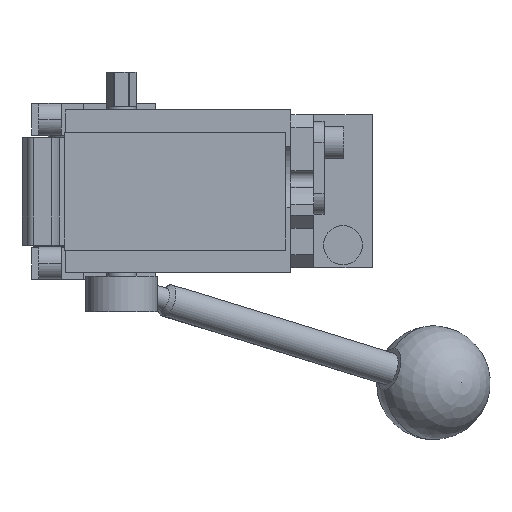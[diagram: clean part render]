
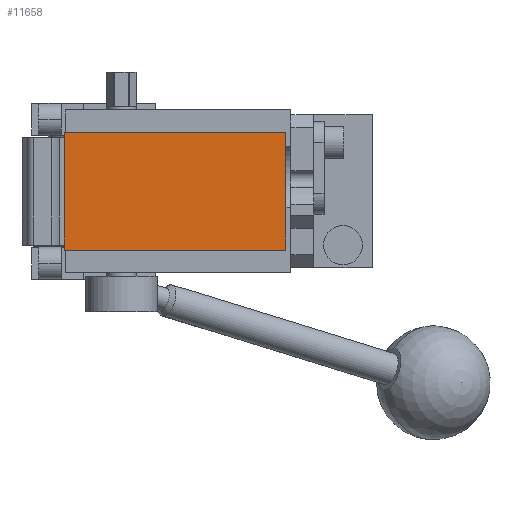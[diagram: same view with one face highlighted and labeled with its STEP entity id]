
A CAD part, front view. The second image highlights one B-rep face of the part: STEP entity #11658.
In plain terms, the highlighted planar face has unit normal (0, -1, 0).
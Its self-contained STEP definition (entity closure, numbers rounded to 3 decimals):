
#1017 = DIRECTION ( 'NONE',  ( 0., -1., 0. ) ) ;
#1284 = DIRECTION ( 'NONE',  ( 0., 0., -1. ) ) ;
#1660 = EDGE_CURVE ( 'NONE', #15137, #3985, #5081, .T. ) ;
#1735 = CARTESIAN_POINT ( 'NONE',  ( -6., -233., 18. ) ) ;
#1949 = CARTESIAN_POINT ( 'NONE',  ( 62., -233., -18. ) ) ;
#2116 = EDGE_CURVE ( 'NONE', #12957, #13637, #2795, .T. ) ;
#2564 = DIRECTION ( 'NONE',  ( 1., 0., 0. ) ) ;
#2795 = LINE ( 'NONE', #5080, #10249 ) ;
#3809 = ORIENTED_EDGE ( 'NONE', *, *, #2116, .T. ) ;
#3820 = VECTOR ( 'NONE', #2564, 1000. ) ;
#3829 = CARTESIAN_POINT ( 'NONE',  ( -6., -233., -18. ) ) ;
#3985 = VERTEX_POINT ( 'NONE', #8563 ) ;
#4363 = FACE_OUTER_BOUND ( 'NONE', #11529, .T. ) ;
#5003 = LINE ( 'NONE', #3829, #3820 ) ;
#5080 = CARTESIAN_POINT ( 'NONE',  ( -6., -233., 18. ) ) ;
#5081 = LINE ( 'NONE', #13370, #6909 ) ;
#5092 = CARTESIAN_POINT ( 'NONE',  ( -6., -233., -18. ) ) ;
#6810 = DIRECTION ( 'NONE',  ( 0., 0., -1. ) ) ;
#6909 = VECTOR ( 'NONE', #7386, 1000. ) ;
#7105 = ORIENTED_EDGE ( 'NONE', *, *, #1660, .T. ) ;
#7124 = AXIS2_PLACEMENT_3D ( 'NONE', #8021, #1017, #6810 ) ;
#7386 = DIRECTION ( 'NONE',  ( 0., 0., 1. ) ) ;
#7516 = DIRECTION ( 'NONE',  ( -1., 0., 0. ) ) ;
#8021 = CARTESIAN_POINT ( 'NONE',  ( 0., -233., 0. ) ) ;
#8563 = CARTESIAN_POINT ( 'NONE',  ( 62., -233., 18. ) ) ;
#10153 = LINE ( 'NONE', #1735, #14028 ) ;
#10249 = VECTOR ( 'NONE', #1284, 1000. ) ;
#11085 = EDGE_CURVE ( 'NONE', #13637, #15137, #5003, .T. ) ;
#11529 = EDGE_LOOP ( 'NONE', ( #3809, #13009, #7105, #13966 ) ) ;
#11658 = ADVANCED_FACE ( 'NONE', ( #4363 ), #11929, .T. ) ;
#11929 = PLANE ( 'NONE',  #7124 ) ;
#11950 = EDGE_CURVE ( 'NONE', #3985, #12957, #10153, .T. ) ;
#12957 = VERTEX_POINT ( 'NONE', #14530 ) ;
#13009 = ORIENTED_EDGE ( 'NONE', *, *, #11085, .T. ) ;
#13370 = CARTESIAN_POINT ( 'NONE',  ( 62., -233., 18. ) ) ;
#13637 = VERTEX_POINT ( 'NONE', #5092 ) ;
#13966 = ORIENTED_EDGE ( 'NONE', *, *, #11950, .T. ) ;
#14028 = VECTOR ( 'NONE', #7516, 1000. ) ;
#14530 = CARTESIAN_POINT ( 'NONE',  ( -6., -233., 18. ) ) ;
#15137 = VERTEX_POINT ( 'NONE', #1949 ) ;
